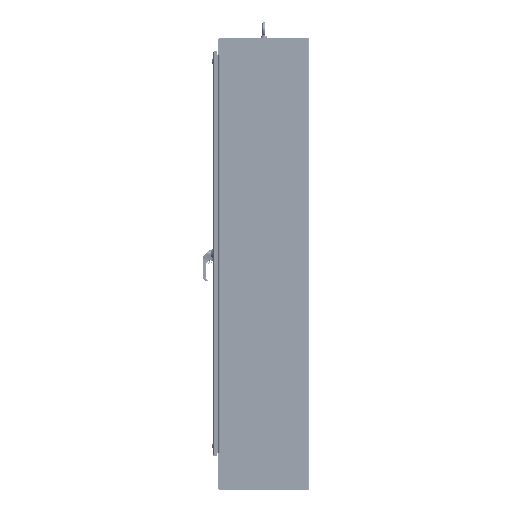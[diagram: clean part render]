
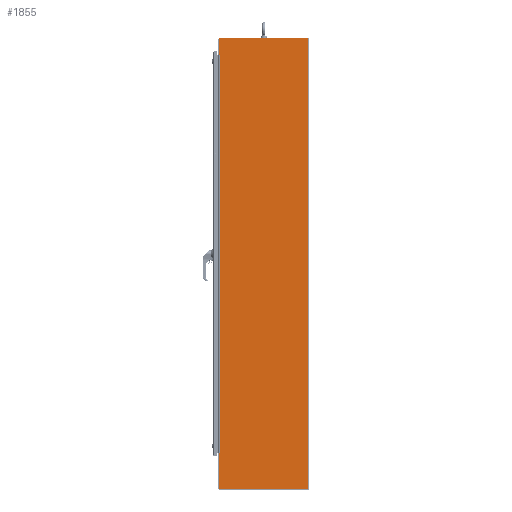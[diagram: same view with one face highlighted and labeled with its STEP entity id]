
A CAD part, front view. The second image highlights one B-rep face of the part: STEP entity #1855.
In plain terms, the highlighted planar face has unit normal (0, -1, 0).
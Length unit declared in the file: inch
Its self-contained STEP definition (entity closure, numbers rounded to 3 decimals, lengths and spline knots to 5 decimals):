
#84=DIRECTION('',(0.,0.,-1.));
#85=VECTOR('',#84,7.16077);
#86=CARTESIAN_POINT('',(0.,-0.104,-82.48873));
#87=LINE('',#86,#85);
#98=DIRECTION('',(0.,0.,-1.));
#99=VECTOR('',#98,3.16077);
#100=CARTESIAN_POINT('',(0.,-0.104,-0.1425));
#101=LINE('',#100,#99);
#166=DIRECTION('',(0.,0.,1.));
#167=VECTOR('',#166,79.104);
#168=CARTESIAN_POINT('',(0.1425,-0.104,-82.448));
#169=LINE('',#168,#167);
#257=CARTESIAN_POINT('',(0.1425,-0.104,-89.6495));
#258=DIRECTION('',(0.,-1.,0.));
#259=DIRECTION('',(-1.,0.,0.));
#260=AXIS2_PLACEMENT_3D('',#257,#258,#259);
#265=DIRECTION('',(0.985,0.,0.174));
#266=VECTOR('',#265,0.1447);
#267=CARTESIAN_POINT('',(0.,-0.104,-82.48873));
#268=LINE('',#267,#266);
#272=DIRECTION('',(0.,0.,-1.));
#273=VECTOR('',#272,0.0156);
#274=CARTESIAN_POINT('',(0.1425,-0.104,-82.448));
#275=LINE('',#274,#273);
#279=DIRECTION('',(0.,0.,1.));
#280=VECTOR('',#279,0.0156);
#281=CARTESIAN_POINT('',(0.1425,-0.104,-3.344));
#282=LINE('',#281,#280);
#286=DIRECTION('',(0.985,0.,-0.174));
#287=VECTOR('',#286,0.1447);
#288=CARTESIAN_POINT('',(0.,-0.104,-3.30327));
#289=LINE('',#288,#287);
#293=CARTESIAN_POINT('',(0.1425,-0.104,-0.1425));
#294=DIRECTION('',(0.,-1.,0.));
#295=DIRECTION('',(0.,0.,1.));
#296=AXIS2_PLACEMENT_3D('',#293,#294,#295);
#315=DIRECTION('',(-1.,0.,0.));
#316=VECTOR('',#315,17.507);
#317=CARTESIAN_POINT('',(17.6495,-0.104,0.));
#318=LINE('',#317,#316);
#344=DIRECTION('',(0.,0.,-1.));
#345=VECTOR('',#344,89.792);
#346=CARTESIAN_POINT('',(17.6495,-0.104,0.));
#347=LINE('',#346,#345);
#560=DIRECTION('',(1.,0.,0.));
#561=VECTOR('',#560,17.507);
#562=CARTESIAN_POINT('',(0.1425,-0.104,-89.792));
#563=LINE('',#562,#561);
#1219=CARTESIAN_POINT('',(17.6495,-0.104,-89.792));
#1220=VERTEX_POINT('',#1219);
#1221=CARTESIAN_POINT('',(17.6495,-0.104,0.));
#1222=VERTEX_POINT('',#1221);
#1236=CARTESIAN_POINT('',(0.1425,-0.104,-82.448));
#1238=VERTEX_POINT('',#1236);
#1249=CARTESIAN_POINT('',(0.1425,-0.104,-3.344));
#1250=CARTESIAN_POINT('',(0.1425,-0.104,-3.3284));
#1251=VERTEX_POINT('',#1249);
#1252=VERTEX_POINT('',#1250);
#1253=CARTESIAN_POINT('',(0.,-0.104,-3.30327));
#1254=VERTEX_POINT('',#1253);
#1259=CARTESIAN_POINT('',(0.1425,-0.104,-82.4636));
#1260=VERTEX_POINT('',#1259);
#1261=CARTESIAN_POINT('',(0.,-0.104,-82.48873));
#1262=VERTEX_POINT('',#1261);
#1319=CARTESIAN_POINT('',(0.,-0.104,-89.6495));
#1320=VERTEX_POINT('',#1319);
#1321=CARTESIAN_POINT('',(0.1425,-0.104,-89.792));
#1322=VERTEX_POINT('',#1321);
#1327=CARTESIAN_POINT('',(0.1425,-0.104,0.));
#1328=VERTEX_POINT('',#1327);
#1329=CARTESIAN_POINT('',(0.,-0.104,-0.1425));
#1330=VERTEX_POINT('',#1329);
#1832=CARTESIAN_POINT('',(17.844,-0.104,0.));
#1833=DIRECTION('',(0.,1.,0.));
#1834=DIRECTION('',(-1.,0.,0.));
#1835=AXIS2_PLACEMENT_3D('',#1832,#1833,#1834);
#1836=PLANE('',#1835);
#1837=ORIENTED_EDGE('',*,*,#1450,.F.);
#1838=ORIENTED_EDGE('',*,*,#1473,.F.);
#1839=ORIENTED_EDGE('',*,*,#1582,.T.);
#1840=ORIENTED_EDGE('',*,*,#1580,.F.);
#1841=ORIENTED_EDGE('',*,*,#1609,.T.);
#1842=ORIENTED_EDGE('',*,*,#1820,.T.);
#1843=ORIENTED_EDGE('',*,*,#1818,.F.);
#1844=ORIENTED_EDGE('',*,*,#1492,.F.);
#1846=ORIENTED_EDGE('',*,*,#1845,.F.);
#1848=ORIENTED_EDGE('',*,*,#1847,.F.);
#1850=ORIENTED_EDGE('',*,*,#1849,.T.);
#1852=ORIENTED_EDGE('',*,*,#1851,.F.);
#1853=EDGE_LOOP('',(#1837,#1838,#1839,#1840,#1841,#1842,#1843,#1844,#1846,#1848,
#1850,#1852));
#1854=FACE_OUTER_BOUND('',#1853,.F.);
#261=CIRCLE('',#260,0.1425);
#297=CIRCLE('',#296,0.1425);
#1450=EDGE_CURVE('',#1320,#1322,#261,.T.);
#1473=EDGE_CURVE('',#1262,#1320,#87,.T.);
#1492=EDGE_CURVE('',#1330,#1254,#101,.T.);
#1580=EDGE_CURVE('',#1238,#1260,#275,.T.);
#1582=EDGE_CURVE('',#1262,#1260,#268,.T.);
#1609=EDGE_CURVE('',#1238,#1251,#169,.T.);
#1818=EDGE_CURVE('',#1254,#1252,#289,.T.);
#1820=EDGE_CURVE('',#1251,#1252,#282,.T.);
#1845=EDGE_CURVE('',#1328,#1330,#297,.T.);
#1847=EDGE_CURVE('',#1222,#1328,#318,.T.);
#1849=EDGE_CURVE('',#1222,#1220,#347,.T.);
#1851=EDGE_CURVE('',#1322,#1220,#563,.T.);
#1855=ADVANCED_FACE('',(#1854),#1836,.F.);
